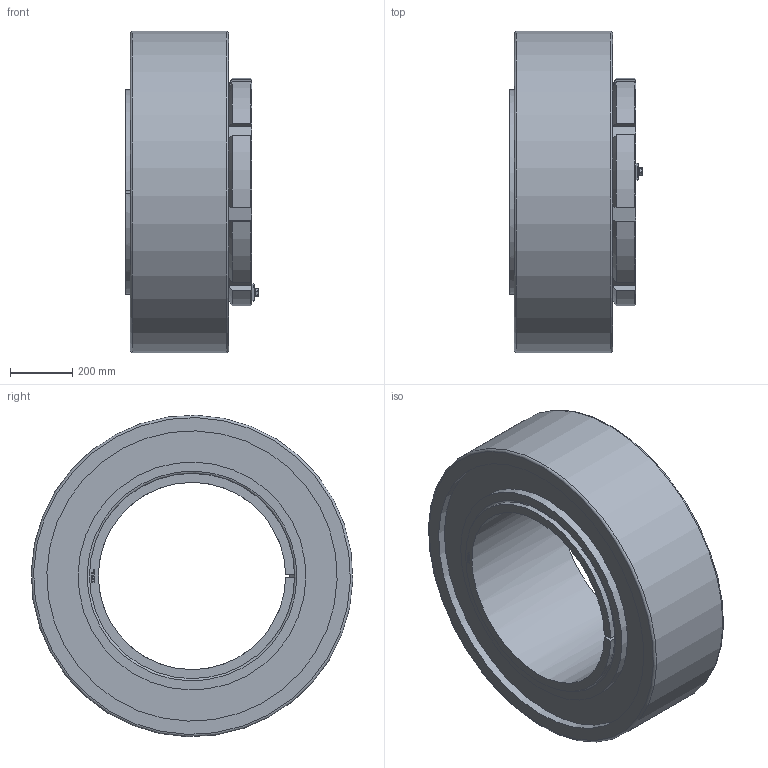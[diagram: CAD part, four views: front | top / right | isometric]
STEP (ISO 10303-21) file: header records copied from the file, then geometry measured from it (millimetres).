
FILE_DESCRIPTION( ( 'STEP AP203' ), ' ' );
FILE_NAME( 'p:/temp/worker_330/4304_4244/app_90_02016102820334266107232192d056f_000000_00_00_000000/format_0/BGL H 31_630 TL+231_630K.stp', '2016-10-28T18:33:45', ( '' ), ( '' ), ' ', 'PARTsolutions', ' ' );
FILE_SCHEMA( ( 'CONFIG_CONTROL_DESIGN' ) );
Length unit declared in the file: millimetre
Products named in the file (6): BGL H 31/630 TL+231/630K; _BGLH31/630TLB; _BGL HM 30/630; _BGLH31/630TL+H-231/630K; _BGL MS 30/630part; _BGL MS 30/630HHS
Assembly tree (5 placements, depth 2):
  BGL H 31/630 TL+231/630K
    _BGLH31/630TLB
    _BGL HM 30/630
    _BGLH31/630TL+H-231/630K
    _BGL MS 30/630part
    _BGL MS 30/630HHS
Bounding box: 423.98 x 1029.65 x 1029.65 mm (x, y, z)
Volume: 169669210.6 mm3; surface area: 5123148.7 mm2
Topology: 5 solids, 5 shells, 351 faces, 899 edges, 589 vertices
Faces by surface type: plane 230, cylinder 79, cone 38, torus 4
Full cylindrical faces by diameter (mm): 16 x9, 18 x1, 24.4 x1, 624 x1, 730 x2, 930 x2, 1030 x1
Entity records: 10778 total; most frequent: CARTESIAN_POINT 2120, DIRECTION 1729, ORIENTED_EDGE 1726, EDGE_CURVE 863, VERTEX_POINT 586, AXIS2_PLACEMENT_3D 577, LINE 575, VECTOR 575
